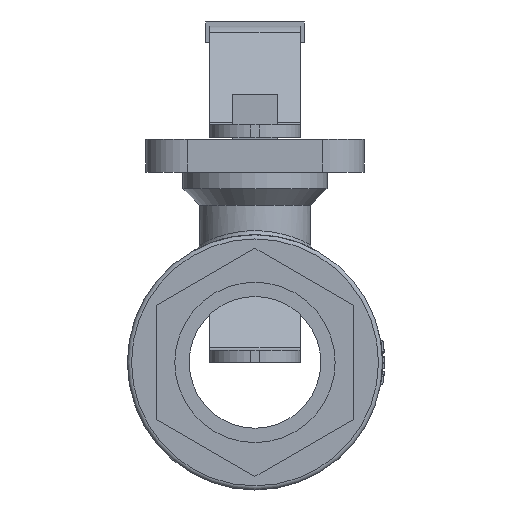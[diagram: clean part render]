
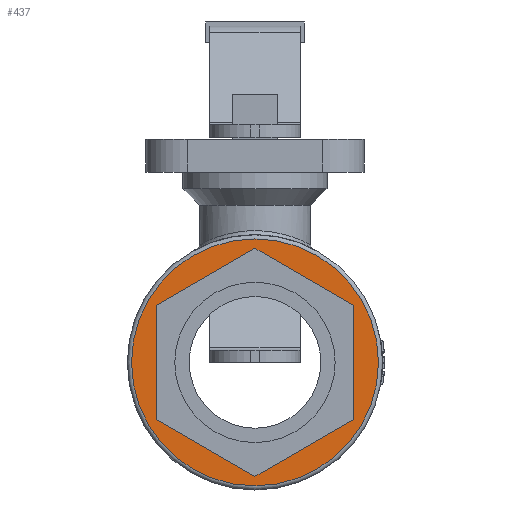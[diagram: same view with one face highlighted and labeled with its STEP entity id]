
A CAD part, left-side view. The second image highlights one B-rep face of the part: STEP entity #437.
In plain terms, the highlighted planar face has unit normal (-1, 0, 0).
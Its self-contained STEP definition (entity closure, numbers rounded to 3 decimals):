
#437 = ADVANCED_FACE( '', ( #984, #985 ), #986, .T. );
#984 = FACE_OUTER_BOUND( '', #2201, .T. );
#985 = FACE_BOUND( '', #2202, .T. );
#986 = PLANE( '', #2203 );
#2201 = EDGE_LOOP( '', ( #4762 ) );
#2202 = EDGE_LOOP( '', ( #4763, #4764, #4765, #4766, #4767, #4768 ) );
#2203 = AXIS2_PLACEMENT_3D( '', #4769, #4770, #4771 );
#4762 = ORIENTED_EDGE( '', *, *, #5938, .T. );
#4763 = ORIENTED_EDGE( '', *, *, #6108, .F. );
#4764 = ORIENTED_EDGE( '', *, *, #6105, .F. );
#4765 = ORIENTED_EDGE( '', *, *, #5726, .F. );
#4766 = ORIENTED_EDGE( '', *, *, #6109, .F. );
#4767 = ORIENTED_EDGE( '', *, *, #5804, .F. );
#4768 = ORIENTED_EDGE( '', *, *, #6110, .F. );
#4769 = CARTESIAN_POINT( '', ( -27., 6., 10.392 ) );
#4770 = DIRECTION( '', ( -1., 0., 0. ) );
#4771 = DIRECTION( '', ( 0., -1., 0. ) );
#5726 = EDGE_CURVE( '', #6463, #6465, #6466, .T. );
#5804 = EDGE_CURVE( '', #6600, #6602, #6603, .T. );
#5938 = EDGE_CURVE( '', #6824, #6824, #6825, .T. );
#6105 = EDGE_CURVE( '', #6465, #7072, #7073, .T. );
#6108 = EDGE_CURVE( '', #7072, #7076, #7077, .T. );
#6109 = EDGE_CURVE( '', #6602, #6463, #7078, .T. );
#6110 = EDGE_CURVE( '', #7076, #6600, #7079, .T. );
#6463 = VERTEX_POINT( '', #7743 );
#6465 = VERTEX_POINT( '', #7746 );
#6466 = LINE( '', #7747, #7748 );
#6600 = VERTEX_POINT( '', #7975 );
#6602 = VERTEX_POINT( '', #7978 );
#6603 = LINE( '', #7979, #7980 );
#6824 = VERTEX_POINT( '', #8687 );
#6825 = CIRCLE( '', #8688, 30. );
#7072 = VERTEX_POINT( '', #9481 );
#7073 = LINE( '', #9482, #9483 );
#7076 = VERTEX_POINT( '', #9487 );
#7077 = LINE( '', #9488, #9489 );
#7078 = LINE( '', #9490, #9491 );
#7079 = LINE( '', #9492, #9493 );
#7743 = CARTESIAN_POINT( '', ( -27., 0., -27.713 ) );
#7746 = CARTESIAN_POINT( '', ( -27., -24., -13.856 ) );
#7747 = CARTESIAN_POINT( '', ( -27., 0., -27.713 ) );
#7748 = VECTOR( '', #11223, 1000. );
#7975 = CARTESIAN_POINT( '', ( -27., 24., 13.856 ) );
#7978 = CARTESIAN_POINT( '', ( -27., 24., -13.856 ) );
#7979 = CARTESIAN_POINT( '', ( -27., 24., 13.856 ) );
#7980 = VECTOR( '', #11241, 1000. );
#8687 = CARTESIAN_POINT( '', ( -27., -30., 0. ) );
#8688 = AXIS2_PLACEMENT_3D( '', #11347, #11348, #11349 );
#9481 = CARTESIAN_POINT( '', ( -27., -24., 13.856 ) );
#9482 = CARTESIAN_POINT( '', ( -27., -24., -13.856 ) );
#9483 = VECTOR( '', #11413, 1000. );
#9487 = CARTESIAN_POINT( '', ( -27., 0., 27.713 ) );
#9488 = CARTESIAN_POINT( '', ( -27., -24., 13.856 ) );
#9489 = VECTOR( '', #11415, 1000. );
#9490 = CARTESIAN_POINT( '', ( -27., 24., -13.856 ) );
#9491 = VECTOR( '', #11416, 1000. );
#9492 = CARTESIAN_POINT( '', ( -27., 0., 27.713 ) );
#9493 = VECTOR( '', #11417, 1000. );
#11223 = DIRECTION( '', ( 0., -0.866, 0.5 ) );
#11241 = DIRECTION( '', ( 0., 0., -1. ) );
#11347 = CARTESIAN_POINT( '', ( -27., 0., 0. ) );
#11348 = DIRECTION( '', ( -1., 0., 0. ) );
#11349 = DIRECTION( '', ( 0., -1., 0. ) );
#11413 = DIRECTION( '', ( 0., 0., 1. ) );
#11415 = DIRECTION( '', ( 0., 0.866, 0.5 ) );
#11416 = DIRECTION( '', ( 0., -0.866, -0.5 ) );
#11417 = DIRECTION( '', ( 0., 0.866, -0.5 ) );
